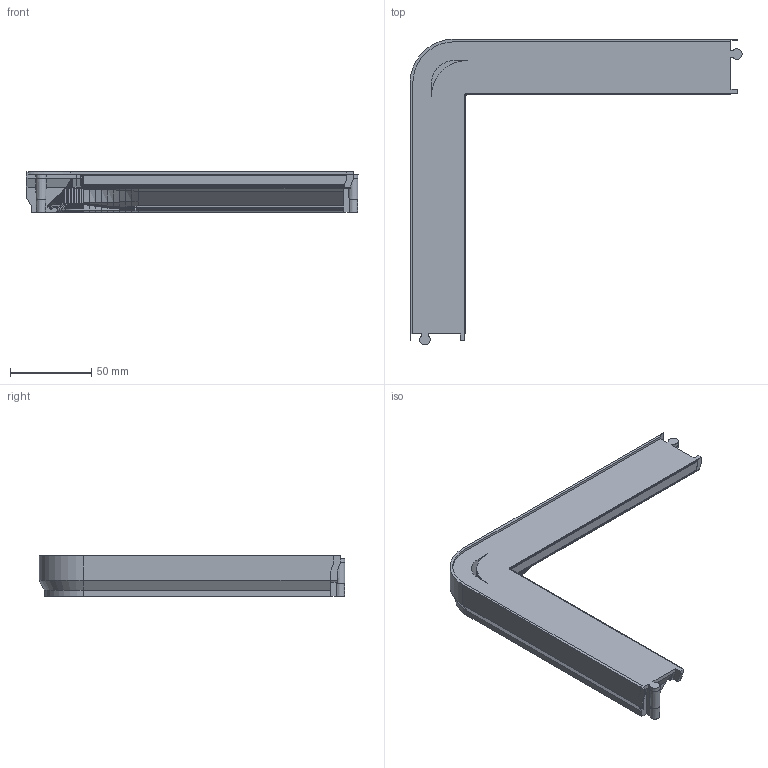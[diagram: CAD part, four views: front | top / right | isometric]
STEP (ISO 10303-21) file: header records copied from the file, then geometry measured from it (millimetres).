
FILE_DESCRIPTION(('Open CASCADE Model'),'2;1');
FILE_NAME('Open CASCADE Shape Model','2026-10-24T08:15:28',('Author'),( 'Open CASCADE'),'Open CASCADE STEP processor 8.0','build123d', 'Unknown');
FILE_SCHEMA(('AUTOMOTIVE_DESIGN { 1 0 10303 214 1 1 1 1 }'));
Products named in the file (1): SOLID
Bounding box: 203.88 x 187.88 x 25 mm (x, y, z)
Volume: 185807.6 mm3; surface area: 48230.3 mm2
Topology: 1 solids, 1 shells, 2227 faces, 4763 edges, 2539 vertices
Faces by surface type: bspline 1820, plane 396, cone 7, cylinder 4
Entity records: 114854 total; most frequent: CARTESIAN_POINT 29922, DIRECTION 10753, LINE 9901, VECTOR 9901, ORIENTED_EDGE 9526, PCURVE 9526, DEFINITIONAL_REPRESENTATION 9526, EDGE_CURVE 4763
